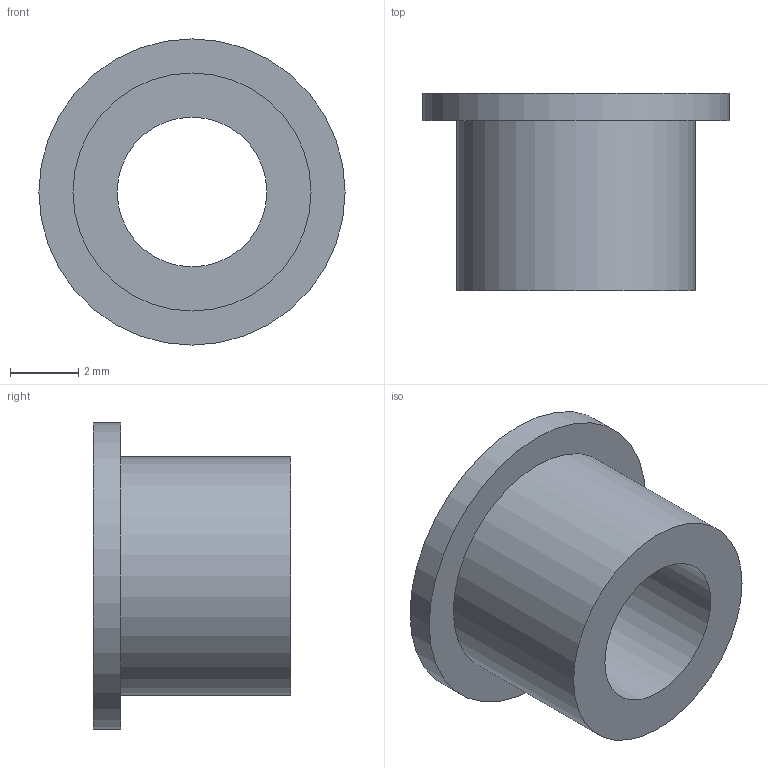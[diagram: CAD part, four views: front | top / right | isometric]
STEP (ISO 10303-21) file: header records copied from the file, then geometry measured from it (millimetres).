
FILE_DESCRIPTION( ( 'STEP AP214' ), '1' );
FILE_NAME( 'D:/Yug/2020/Delta_project/Nov-Dec/ProDecor/QC/9113347.stp', '2020-12-30T04:35:42', ( '' ), ( '' ), ' ', 'PARTsolutions', ' ' );
FILE_SCHEMA( ( 'AUTOMOTIVE_DESIGN { 1 0 10303 214 1 1 1 1 }' ) );
Length unit declared in the file: millimetre
Products named in the file (1): _9113347
Bounding box: 9 x 5.8 x 9 mm (x, y, z)
Volume: 155.1 mm3; surface area: 309.6 mm2
Topology: 1 solids, 1 shells, 6 faces, 9 edges, 6 vertices
Faces by surface type: plane 3, cylinder 3
Full cylindrical faces by diameter (mm): 4.4 x1, 7 x1, 9 x1
Entity records: 192 total; most frequent: DIRECTION 26, CARTESIAN_POINT 19, AXIS2_PLACEMENT_3D 13, EDGE_LOOP 12, ORIENTED_EDGE 12, FACE_OUTER_BOUND 9, STYLED_ITEM 6, PRESENTATION_STYLE_ASSIGNMENT 6
